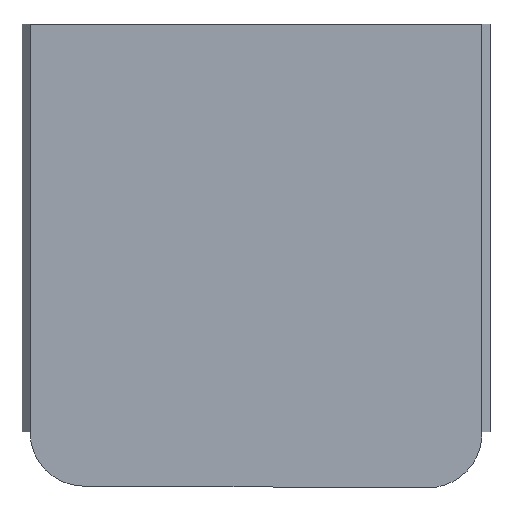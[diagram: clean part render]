
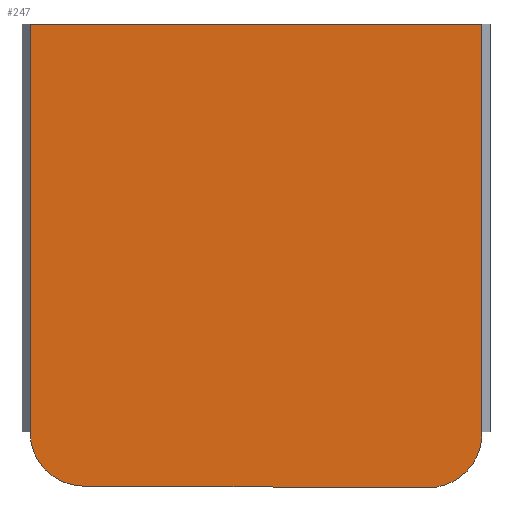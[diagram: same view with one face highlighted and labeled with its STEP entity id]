
A CAD part, front view. The second image highlights one B-rep face of the part: STEP entity #247.
In plain terms, the highlighted planar face has unit normal (0, -1, 0).
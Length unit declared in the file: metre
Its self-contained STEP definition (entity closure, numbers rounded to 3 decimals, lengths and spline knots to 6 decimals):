
#247 = ADVANCED_FACE( '', ( #541 ), #542, .F. );
#541 = FACE_OUTER_BOUND( '', #887, .T. );
#542 = PLANE( '', #888 );
#887 = EDGE_LOOP( '', ( #2558, #2559, #2560, #2561, #2562, #2563 ) );
#888 = AXIS2_PLACEMENT_3D( '', #2564, #2565, #2566 );
#2558 = ORIENTED_EDGE( '', *, *, #3783, .T. );
#2559 = ORIENTED_EDGE( '', *, *, #3746, .F. );
#2560 = ORIENTED_EDGE( '', *, *, #3722, .T. );
#2561 = ORIENTED_EDGE( '', *, *, #3784, .F. );
#2562 = ORIENTED_EDGE( '', *, *, #3719, .F. );
#2563 = ORIENTED_EDGE( '', *, *, #3785, .F. );
#2564 = CARTESIAN_POINT( '', ( 0.000275, -0.001412, 0.061 ) );
#2565 = DIRECTION( '', ( 0., 1., 0. ) );
#2566 = DIRECTION( '', ( 0., 0., 1. ) );
#3719 = EDGE_CURVE( '', #4279, #4277, #4281, .T. );
#3722 = EDGE_CURVE( '', #4285, #4283, #4286, .T. );
#3746 = EDGE_CURVE( '', #4285, #4313, #4315, .T. );
#3783 = EDGE_CURVE( '', #4354, #4313, #4355, .T. );
#3784 = EDGE_CURVE( '', #4277, #4283, #4356, .T. );
#3785 = EDGE_CURVE( '', #4354, #4279, #4357, .T. );
#4277 = VERTEX_POINT( '', #7518 );
#4279 = VERTEX_POINT( '', #7521 );
#4281 = LINE( '', #7524, #7525 );
#4283 = VERTEX_POINT( '', #7527 );
#4285 = VERTEX_POINT( '', #7530 );
#4286 = LINE( '', #7531, #7532 );
#4313 = VERTEX_POINT( '', #7569 );
#4315 = CIRCLE( '', #7572, 0.008026 );
#4354 = VERTEX_POINT( '', #7928 );
#4355 = LINE( '', #7929, #7930 );
#4356 = CIRCLE( '', #7931, 0.008026 );
#4357 = LINE( '', #7932, #7933 );
#7518 = CARTESIAN_POINT( '', ( 0.034117, -0.001412, 0. ) );
#7521 = CARTESIAN_POINT( '', ( 0.034117, -0.001412, 0.061 ) );
#7524 = CARTESIAN_POINT( '', ( 0.034117, -0.001412, 0.061 ) );
#7525 = VECTOR( '', #8445, 1. );
#7527 = CARTESIAN_POINT( '', ( 0.026101, -0.001412, -0.008418 ) );
#7530 = CARTESIAN_POINT( '', ( -0.025488, -0.001412, -0.008179 ) );
#7531 = CARTESIAN_POINT( '', ( 0.000513, -0.001412, -0.008299 ) );
#7532 = VECTOR( '', #8447, 1. );
#7569 = CARTESIAN_POINT( '', ( -0.033513, -0.001412, 0. ) );
#7572 = AXIS2_PLACEMENT_3D( '', #8471, #8472, #8473 );
#7928 = CARTESIAN_POINT( '', ( -0.033513, -0.001412, 0.061 ) );
#7929 = CARTESIAN_POINT( '', ( -0.033513, -0.001412, 0.061 ) );
#7930 = VECTOR( '', #8493, 1. );
#7931 = AXIS2_PLACEMENT_3D( '', #8494, #8495, #8496 );
#7932 = CARTESIAN_POINT( '', ( 0.000275, -0.001412, 0.061 ) );
#7933 = VECTOR( '', #8497, 1. );
#8445 = DIRECTION( '', ( 0., 0., -1. ) );
#8447 = DIRECTION( '', ( 1., 0., -0.005 ) );
#8471 = CARTESIAN_POINT( '', ( -0.025488, -0.001412, -0.000153 ) );
#8472 = DIRECTION( '', ( 0., 1., 0. ) );
#8473 = DIRECTION( '', ( 0., 0., 1. ) );
#8493 = DIRECTION( '', ( 0., 0., -1. ) );
#8494 = CARTESIAN_POINT( '', ( 0.026101, -0.001412, -0.000392 ) );
#8495 = DIRECTION( '', ( 0., 1., 0. ) );
#8496 = DIRECTION( '', ( 0., 0., 1. ) );
#8497 = DIRECTION( '', ( 1., 0., 0. ) );
